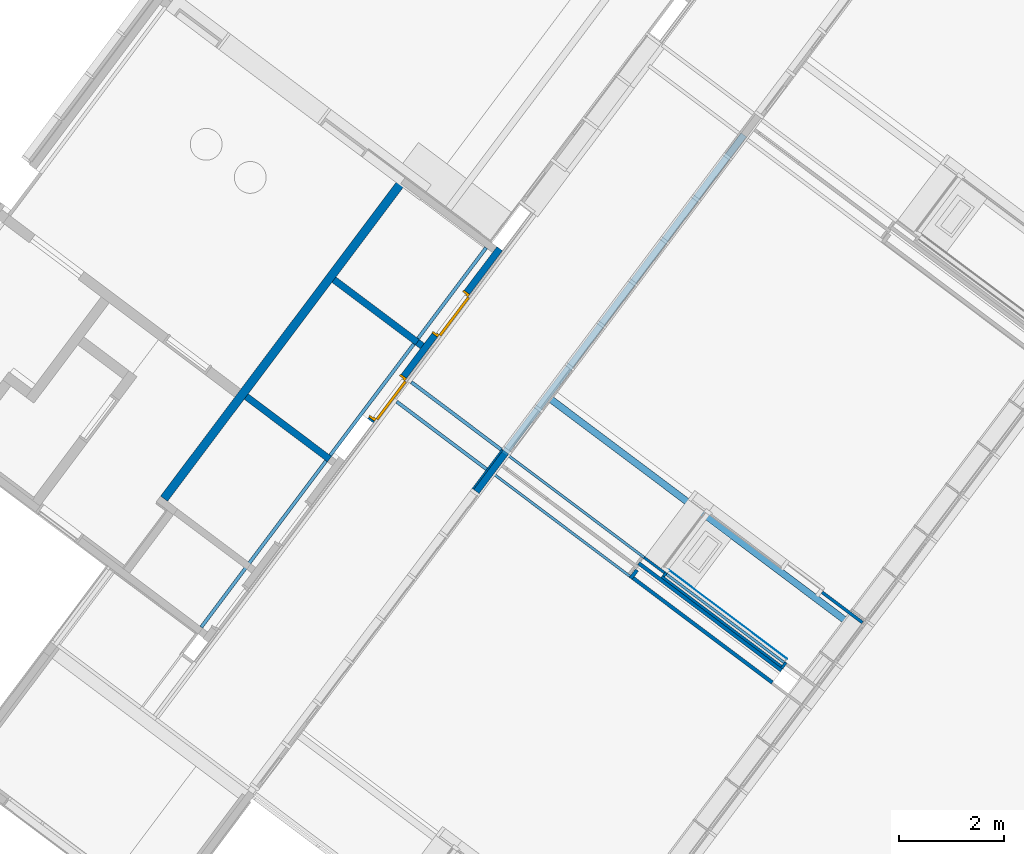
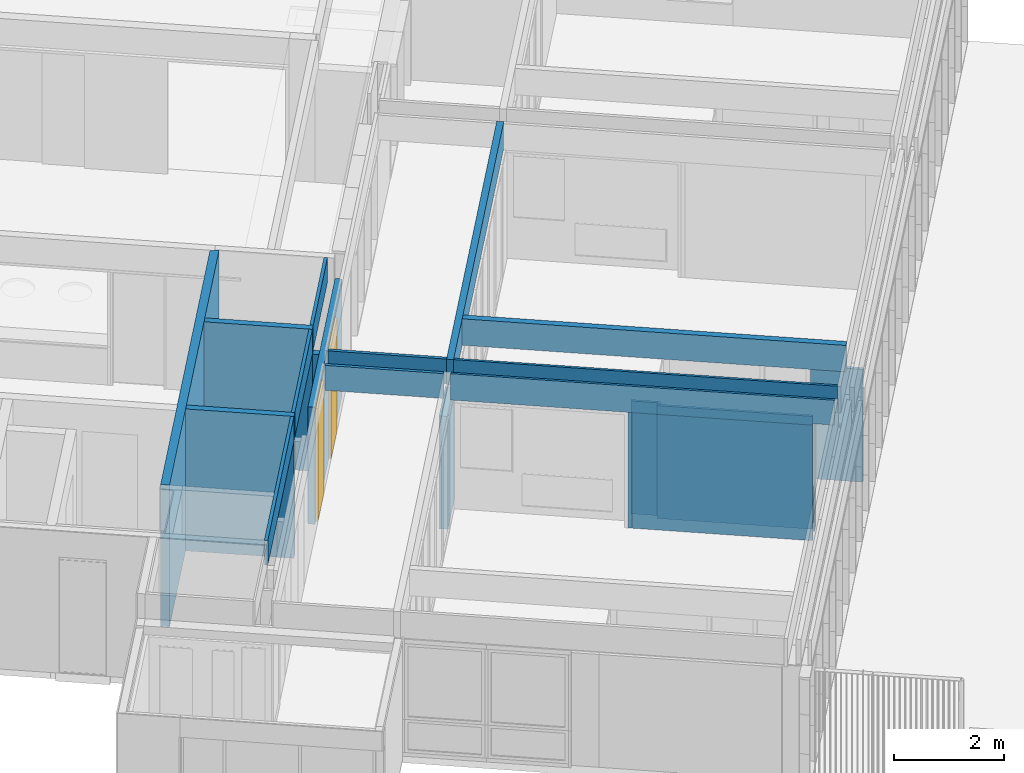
# One storey, part 120 of 243: 23 walls, 2 doors, 2 openings.
"""IFC2X3 building model written with IfcOpenShell, lengths in metres."""

from ifc_helpers import new_model, entity, si_unit, converted_unit, derived_unit, direction, frame, frame_2d, origin, place, context, subcontext, project, spatial, polyline, rectangle, outline, extrude, clip, bounded_halfspace, faceted_brep, source, transform, mapped, material, layer, layer_set, layer_usage, type_object, type_shapes, element, fill, save


model = new_model("IFC2X3")

# Units and contexts
model_context = context("Model", 3, precision=1e-05, world=origin(), true_north=direction((6.123031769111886e-17, 1.0)))
body_context = subcontext(model_context, "Body", "Model", "MODEL_VIEW")
ifc_project = project(units=[si_unit("LENGTHUNIT", "METRE"), si_unit("AREAUNIT", "SQUARE_METRE"), si_unit("VOLUMEUNIT", "CUBIC_METRE"), converted_unit("PLANEANGLEUNIT", "DEGREE", entity("IfcRatioMeasure", 0.017453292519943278), si_unit("PLANEANGLEUNIT", "RADIAN"), dimensions=[0, 0, 0, 0, 0, 0, 0]), si_unit("MASSUNIT", "GRAM", prefix="KILO"), derived_unit("MASSDENSITYUNIT", [(si_unit("MASSUNIT", "GRAM", prefix="KILO"), 1), (si_unit("LENGTHUNIT", "METRE"), -3)]), derived_unit("IONCONCENTRATIONUNIT", [(si_unit("MASSUNIT", "GRAM", prefix="KILO"), 1), (si_unit("LENGTHUNIT", "METRE"), -3)]), derived_unit("MOMENTOFINERTIAUNIT", [(si_unit("LENGTHUNIT", "METRE"), 4)]), si_unit("TIMEUNIT", "SECOND"), si_unit("FREQUENCYUNIT", "HERTZ"), si_unit("THERMODYNAMICTEMPERATUREUNIT", "DEGREE_CELSIUS"), derived_unit("THERMALTRANSMITTANCEUNIT", [(si_unit("MASSUNIT", "GRAM", prefix="KILO"), 1), (si_unit("THERMODYNAMICTEMPERATUREUNIT", "KELVIN"), -1), (si_unit("TIMEUNIT", "SECOND"), -3)]), derived_unit("THERMALCONDUCTANCEUNIT", [(si_unit("MASSUNIT", "GRAM", prefix="KILO"), 1), (si_unit("THERMODYNAMICTEMPERATUREUNIT", "KELVIN"), -1), (si_unit("TIMEUNIT", "SECOND"), -3), (si_unit("LENGTHUNIT", "METRE"), 1)]), derived_unit("VOLUMETRICFLOWRATEUNIT", [(si_unit("LENGTHUNIT", "METRE"), 3), (si_unit("TIMEUNIT", "SECOND"), -1)]), derived_unit("MASSFLOWRATEUNIT", [(si_unit("MASSUNIT", "GRAM", prefix="KILO"), 1), (si_unit("TIMEUNIT", "SECOND"), -1)]), derived_unit("ROTATIONALFREQUENCYUNIT", [(si_unit("TIMEUNIT", "SECOND"), -1)]), si_unit("ELECTRICCURRENTUNIT", "AMPERE"), si_unit("ELECTRICVOLTAGEUNIT", "VOLT"), si_unit("POWERUNIT", "WATT"), si_unit("FORCEUNIT", "NEWTON", prefix="KILO"), si_unit("ILLUMINANCEUNIT", "LUX"), si_unit("LUMINOUSFLUXUNIT", "LUMEN"), si_unit("LUMINOUSINTENSITYUNIT", "CANDELA"), derived_unit("USERDEFINED", [(si_unit("MASSUNIT", "GRAM", prefix="KILO"), -1), (si_unit("LENGTHUNIT", "METRE"), -2), (si_unit("TIMEUNIT", "SECOND"), 3), (si_unit("LUMINOUSFLUXUNIT", "LUMEN"), 1)]), derived_unit("USERDEFINED", [(si_unit("MASSUNIT", "GRAM", prefix="KILO"), 1), (si_unit("TIMEUNIT", "SECOND"), -3), (si_unit("LENGTHUNIT", "METRE"), 3), (si_unit("ELECTRICCURRENTUNIT", "AMPERE"), -2)]), derived_unit("SOUNDPOWERUNIT", [(si_unit("MASSUNIT", "GRAM", prefix="KILO"), 1), (si_unit("TIMEUNIT", "SECOND"), -3), (si_unit("LENGTHUNIT", "METRE"), 2)]), derived_unit("SOUNDPRESSUREUNIT", [(si_unit("MASSUNIT", "GRAM", prefix="KILO"), 1), (si_unit("LENGTHUNIT", "METRE"), -1), (si_unit("TIMEUNIT", "SECOND"), -2)]), derived_unit("LINEARVELOCITYUNIT", [(si_unit("LENGTHUNIT", "METRE"), 1), (si_unit("TIMEUNIT", "SECOND"), -1)]), si_unit("PRESSUREUNIT", "PASCAL"), derived_unit("USERDEFINED", [(si_unit("MASSUNIT", "GRAM", prefix="KILO"), 1), (si_unit("LENGTHUNIT", "METRE"), -2), (si_unit("TIMEUNIT", "SECOND"), -2)]), derived_unit("LINEARFORCEUNIT", [(si_unit("MASSUNIT", "GRAM", prefix="KILO"), 1), (si_unit("TIMEUNIT", "SECOND"), -2)]), derived_unit("PLANARFORCEUNIT", [(si_unit("MASSUNIT", "GRAM", prefix="KILO"), 1), (si_unit("LENGTHUNIT", "METRE"), -1), (si_unit("TIMEUNIT", "SECOND"), -2)]), derived_unit("SPECIFICHEATCAPACITYUNIT", [(si_unit("THERMODYNAMICTEMPERATUREUNIT", "KELVIN"), -1), (si_unit("LENGTHUNIT", "METRE"), 2), (si_unit("TIMEUNIT", "SECOND"), -2)]), derived_unit("HEATINGVALUEUNIT", [(si_unit("LENGTHUNIT", "METRE"), 2), (si_unit("TIMEUNIT", "SECOND"), -2)]), derived_unit("VAPORPERMEABILITYUNIT", [(si_unit("LENGTHUNIT", "METRE"), -1), (si_unit("TIMEUNIT", "SECOND"), 1)]), derived_unit("DYNAMICVISCOSITYUNIT", [(si_unit("MASSUNIT", "GRAM", prefix="KILO"), 1), (si_unit("TIMEUNIT", "SECOND"), -1), (si_unit("LENGTHUNIT", "METRE"), -1)]), derived_unit("THERMALEXPANSIONCOEFFICIENTUNIT", [(si_unit("THERMODYNAMICTEMPERATUREUNIT", "KELVIN"), -1)]), derived_unit("MODULUSOFELASTICITYUNIT", [(si_unit("MASSUNIT", "GRAM", prefix="KILO"), 1), (si_unit("LENGTHUNIT", "METRE"), -1), (si_unit("TIMEUNIT", "SECOND"), -2)]), derived_unit("ISOTHERMALMOISTURECAPACITYUNIT", [(si_unit("LENGTHUNIT", "METRE"), 3), (si_unit("MASSUNIT", "GRAM", prefix="KILO"), -1)]), derived_unit("MOISTUREDIFFUSIVITYUNIT", [(si_unit("TIMEUNIT", "SECOND"), -1), (si_unit("LENGTHUNIT", "METRE"), 2)])], contexts=[model_context])

# Site, building, storey
site_placement = place(None, frame((0.0, 0.0, 235.0), z_axis=(0.0, 0.0, 1.0), x_axis=(-0.7996477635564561, 0.6004693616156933, 0.0)))
site = spatial("IfcSite", under=ifc_project, at=site_placement, Name="Default", CompositionType="ELEMENT")
building_placement = place(site_placement, origin())
building = spatial("IfcBuilding", under=site, at=building_placement, CompositionType="ELEMENT")
storey_placement = place(building_placement, origin())
storey = spatial("IfcBuildingStorey", under=building, at=storey_placement, Name="P0- Escola", CompositionType="ELEMENT", Elevation=0.0)

# Walls
ifc_material_1 = material(Name="_Fusta massisa- T1-  REV- PAV")
ifc_layer_1 = layer(ifc_material_1, 0.015)
ifc_material_2 = material(Name="_Genèric perfils, muntants, rastrells")
ifc_layer_2 = layer(ifc_material_2, 0.02)
ifc_layer_set_1 = layer_set([ifc_layer_1, ifc_layer_2], Name="Muro básico:REV- Fusta- T1- 3,5 cm")
ifc_layer_usage_1 = layer_usage(ifc_layer_set_1, "AXIS2", "POSITIVE", -0.0175)
wall_type_1 = type_object("IfcWallType", Name="Muro básico:REV- Fusta- T1- 3,5 cm", PredefinedType="STANDARD", material=ifc_layer_set_1)
wall_1_placement = place(storey_placement, frame((13.42164768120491, -26.44019175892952, 0.0), z_axis=(0.0, 0.0, 1.0), x_axis=(0.0, 1.0, 0.0)))
element("IfcWallStandardCase", 1, at=wall_1_placement, inside=storey, type_object=wall_type_1, material=ifc_layer_usage_1, Name="Muro básico:REV- Fusta- T1- 3,5 cm", ObjectType="Muro básico:REV- Fusta- T1- 3,5 cm", context=body_context, shape_type="SweptSolid", body=[
    extrude(rectangle(XDim=0.9399999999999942, YDim=0.035000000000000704, at=frame_2d((0.4699999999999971, 0.0), x_axis=(-1.0, 0.0))), origin(), (0.0, 0.0, 1.0), 2.5050000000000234),
])
ifc_material_3 = material(Name="_Guix laminat- ENV")
ifc_layer_3 = layer(ifc_material_3, 0.02)
ifc_material_4 = material(Name="_Aillament")
ifc_layer_4 = layer(ifc_material_4, 0.045)
ifc_layer_set_2 = layer_set([ifc_layer_3, ifc_layer_4], Name="Muro básico:REV- Guix Laminat Extradossat- Aillament- T1- 6,5 cm")
ifc_layer_usage_2 = layer_usage(ifc_layer_set_2, "AXIS2", "POSITIVE", -0.032499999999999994)
wall_type_2 = type_object("IfcWallType", Name="Muro básico:REV- Guix Laminat Extradossat- Aillament- T1- 6,5 cm", PredefinedType="STANDARD", material=ifc_layer_set_2)
wall_2_placement = place(storey_placement, frame((15.977647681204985, -29.32519175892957, 2.6), z_axis=(0.0, 0.0, 1.0), x_axis=(0.0, 1.0, 0.0)))
element("IfcWallStandardCase", 2, at=wall_2_placement, inside=storey, type_object=wall_type_2, material=ifc_layer_usage_2, Name="Muro básico:REV- Guix Laminat Extradossat- Aillament- T1- 6,5 cm", ObjectType="Muro básico:REV- Guix Laminat Extradossat- Aillament- T1- 6,5 cm", context=body_context, shape_type="SweptSolid", body=[
    extrude(rectangle(XDim=9.035000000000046, YDim=0.06499999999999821, at=frame_2d((4.517500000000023, 0.0), x_axis=(-1.0, 0.0))), origin(), (0.0, 0.0, 1.0), 0.5500000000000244),
])
ifc_layer_usage_3 = layer_usage(ifc_layer_set_2, "AXIS2", "NEGATIVE", 0.032499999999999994)
wall_3_placement = place(storey_placement, frame((13.410147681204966, -25.957691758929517, 2.600000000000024)))
element("IfcWallStandardCase", 3, at=wall_3_placement, inside=storey, type_object=wall_type_2, material=ifc_layer_usage_3, Name="Muro básico:REV- Guix Laminat Extradossat- Aillament- T1- 6,5 cm", ObjectType="Muro básico:REV- Guix Laminat Extradossat- Aillament- T1- 6,5 cm", context=body_context, shape_type="Clipping", body=[
    clip(extrude(rectangle(XDim=2.1700000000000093, YDim=0.06500000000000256, at=frame_2d((1.0850000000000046, -2.0747292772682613e-15), x_axis=(-1.0, 0.0))), origin(), (0.0, 0.0, 1.0), 0.5499999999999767), bounded_halfspace(frame((2.1700000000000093, -0.03250000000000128, 0.0), z_axis=(0.0, 0.0, 1.0), x_axis=(-1.0, 0.0, 0.0)), True, frame((2.1700000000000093, -0.03250000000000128, 0.0), z_axis=(0.0, 0.0, 1.0), x_axis=(-1.0, 0.0, 0.0)), polyline([(0.0, 0.0), (0.0, -0.06499999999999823), (2.170000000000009, -0.06499999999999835), (2.170000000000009, 0.0), (0.0, 0.0)]))),
])
wall_4_placement = place(storey_placement, frame((13.410147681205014, -26.42269175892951, 2.600000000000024)))
element("IfcWallStandardCase", 4, at=wall_4_placement, inside=storey, type_object=wall_type_2, material=ifc_layer_usage_2, Name="Muro básico:REV- Guix Laminat Extradossat- Aillament- T1- 6,5 cm", ObjectType="Muro básico:REV- Guix Laminat Extradossat- Aillament- T1- 6,5 cm", context=body_context, shape_type="Clipping", body=[
    clip(extrude(rectangle(XDim=2.1699999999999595, YDim=0.06500000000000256, at=frame_2d((1.0849999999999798, 2.3245294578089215e-16), x_axis=(-1.0, 0.0))), origin(), (0.0, 0.0, 1.0), 0.5499999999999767), bounded_halfspace(frame((2.1699999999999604, -0.03249999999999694, 0.0), z_axis=(0.0, 0.0, 1.0), x_axis=(-1.0, 0.0, 0.0)), True, frame((2.1699999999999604, -0.03249999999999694, 0.0), z_axis=(0.0, 0.0, 1.0), x_axis=(-1.0, 0.0, 0.0)), polyline([(0.0, 0.0), (0.0, -0.06499999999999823), (2.169999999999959, -0.06500000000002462), (2.169999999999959, 0.0), (0.0, 0.0)]))),
])

# Wall, openings, doors
ifc_layer_5 = layer(ifc_material_3, 0.03)
ifc_layer_6 = layer(ifc_material_2, 0.07)
ifc_layer_7 = layer(ifc_material_3, 0.03)
ifc_layer_set_3 = layer_set([ifc_layer_5, ifc_layer_6, ifc_layer_7], Name="Muro básico:ENV- Guix Laminat- 13 cm")
ifc_layer_usage_4 = layer_usage(ifc_layer_set_3, "AXIS2", "POSITIVE", -0.06499999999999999)
wall_type_3 = type_object("IfcWallType", Name="Muro básico:ENV- Guix Laminat- 13 cm", PredefinedType="STANDARD", material=ifc_layer_set_3)
wall_5_placement = place(storey_placement, frame((15.760147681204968, -29.465191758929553, 0.0), z_axis=(0.0, 0.0, 1.0), x_axis=(0.0, 1.0, 0.0)))
wall_5 = element("IfcWallStandardCase", 5, at=wall_5_placement, inside=storey, type_object=wall_type_3, material=ifc_layer_usage_4, Name="Muro básico:ENV- Guix Laminat- 13 cm", ObjectType="Muro básico:ENV- Guix Laminat- 13 cm", context=body_context, shape_type="SweptSolid", body=[
    extrude(rectangle(XDim=4.100000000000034, YDim=0.13000000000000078, at=frame_2d((2.050000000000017, 0.0), x_axis=(-1.0, 0.0))), origin(), (0.0, 0.0, 1.0), 2.6000000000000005),
])
opening_1_placement = place(wall_5_placement, frame((4.06000000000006, 0.06499999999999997, 0.0)))
opening_1 = element("IfcOpeningElement", 6, at=opening_1_placement, cuts=wall_5, Name="FUS- Porta Fusta- marc ocult- obertura interior:FUS- Porta Fusta- marc ocult- 90x250,5 cm:1", ObjectType="Opening", context=body_context, shape_type="SweptSolid", body=[
    extrude(rectangle(XDim=2.544999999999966, YDim=1.0199999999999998, at=frame_2d((1.272499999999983, 0.5100000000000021), x_axis=(1.0, 0.0))), frame((0.0, 0.0, 0.0), z_axis=(0.0, -1.0, 0.0), x_axis=(0.0, 0.0, 1.0)), (0.0, 0.0, 1.0), 0.12999999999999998),
])
opening_2_placement = place(wall_5_placement, frame((2.0600000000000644, 0.06499999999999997, 0.0)))
opening_2 = element("IfcOpeningElement", 7, at=opening_2_placement, cuts=wall_5, Name="FUS- Porta Fusta- marc ocult- obertura interior:FUS- Porta Fusta- marc ocult- 90x250,5 cm:1", ObjectType="Opening", context=body_context, shape_type="SweptSolid", body=[
    extrude(rectangle(XDim=2.544999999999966, YDim=1.0199999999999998, at=frame_2d((1.272499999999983, 0.5100000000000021), x_axis=(1.0, 0.0))), frame((0.0, 0.0, 0.0), z_axis=(0.0, -1.0, 0.0), x_axis=(0.0, 0.0, 1.0)), (0.0, 0.0, 1.0), 0.12999999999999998),
])
door_style = type_object("IfcDoorStyle", Name="FUS- Porta Fusta- marc ocult- obertura interior:FUS- Porta Fusta- marc ocult- 90x250,5 cm", ConstructionType="NOTDEFINED", OperationType="NOTDEFINED", ParameterTakesPrecedence=False, Sizeable=False, material=ifc_material_1)
shared_shape = source(origin(), body_context, "Body", "Brep", [
    faceted_brep([(1.0100000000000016, 0.0, 0.0), (1.0100000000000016, -0.009999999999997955, 0.0), (0.9800000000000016, -0.009999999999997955, 0.0), (0.9800000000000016, 0.08000000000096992, 0.0), (0.9599999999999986, 0.08000000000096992, 0.0), (0.9599999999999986, 0.13000000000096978, 0.0), (1.0200000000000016, 0.13000000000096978, 0.0), (1.0200000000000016, 0.0, 0.0), (1.0100000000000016, 0.0, 2.5449999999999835), (1.0100000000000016, -0.009999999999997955, 2.5449999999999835), (0.9800000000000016, -0.009999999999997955, 2.5049999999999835), (0.9800000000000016, 0.08000000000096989, 2.5049999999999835), (0.9599999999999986, 0.08000000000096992, 2.5049999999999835), (0.9599999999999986, 0.09000000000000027, 2.5049999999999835), (0.9599999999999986, 0.13000000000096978, 2.5049999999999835), (1.0200000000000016, 0.13000000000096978, 2.5449999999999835), (1.0200000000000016, 0.0, 2.5449999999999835), (0.010000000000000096, 0.0, 0.0), (0.0, 0.0, 0.0), (0.0, 0.13000000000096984, 0.0), (0.06000000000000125, 0.13000000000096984, 0.0), (0.06000000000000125, 0.08000000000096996, 0.0), (0.03999999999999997, 0.08000000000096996, 0.0), (0.03999999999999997, -0.00999999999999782, 0.0), (0.010000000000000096, -0.00999999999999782, 0.0), (0.010000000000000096, 0.0, 2.5449999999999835), (0.0, 0.0, 2.5449999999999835), (0.0, 0.13000000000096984, 2.5449999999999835), (0.06000000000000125, 0.13000000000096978, 2.5049999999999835), (0.06000000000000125, 0.09000000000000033, 2.5049999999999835), (0.06000000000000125, 0.08000000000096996, 2.5049999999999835), (0.040000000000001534, 0.08000000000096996, 2.5049999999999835), (0.03999999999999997, -0.009999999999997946, 2.5049999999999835), (0.010000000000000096, -0.009999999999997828, 2.5449999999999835)], [[[0, 1, 2, 3, 4, 5, 6, 7]], [[8, 9, 1, 0]], [[3, 2, 10, 11]], [[4, 3, 11, 12]], [[5, 4, 12, 13, 14]], [[15, 16, 7, 6]], [[16, 8, 0, 7]], [[17, 18, 19, 20, 21, 22, 23, 24]], [[25, 26, 18, 17]], [[26, 27, 19, 18]], [[21, 20, 28, 29, 30]], [[22, 21, 30, 31]], [[23, 22, 31, 32]], [[33, 25, 17, 24]], [[8, 16, 15, 27, 26, 25, 33, 9]], [[28, 14, 13, 12, 11, 10, 32, 31, 30, 29]], [[32, 10, 2, 1, 9, 33, 24, 23]], [[14, 28, 20, 19, 27, 15, 6, 5]]]),
    faceted_brep([(0.9599999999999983, 0.17250000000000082, 0.0), (0.9599999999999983, 0.12250000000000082, 0.0), (0.05999999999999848, 0.12250000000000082, 0.0), (0.05999999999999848, 0.17250000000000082, 0.0), (0.9599999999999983, 0.17250000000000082, 2.5050000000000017), (0.9599999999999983, 0.12250000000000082, 2.5050000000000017), (0.05999999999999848, 0.12250000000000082, 2.5050000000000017), (0.05999999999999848, 0.17250000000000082, 2.5050000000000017)], [[[0, 1, 2, 3]], [[4, 5, 1, 0]], [[5, 6, 2, 1]], [[6, 7, 3, 2]], [[7, 4, 0, 3]], [[4, 7, 6, 5]]]),
])
type_shapes(door_style, [shared_shape])
door_1_placement = place(opening_1_placement, frame((-1.019999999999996, -0.129999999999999, 0.0)))
door_1 = element("IfcDoor", 8, at=door_1_placement, inside=storey, type_object=door_style, material=ifc_material_1, Name="FUS- Porta Fusta- marc ocult- obertura interior:FUS- Porta Fusta- marc ocult- 90x250,5 cm", ObjectType="FUS- Porta Fusta- marc ocult- obertura interior:FUS- Porta Fusta- marc ocult- 90x250,5 cm", OverallHeight=2.544999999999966, OverallWidth=1.020000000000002, context=body_context, shape_type="MappedRepresentation", body=[
    mapped(shared_shape, transform((0.0, 0.0, 0.0), scale=1.0)),
])
fill(opening_1, door_1)
door_2_placement = place(opening_2_placement, frame((-1.019999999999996, -0.129999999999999, 0.0)))
door_2 = element("IfcDoor", 9, at=door_2_placement, inside=storey, type_object=door_style, material=ifc_material_1, Name="FUS- Porta Fusta- marc ocult- obertura interior:FUS- Porta Fusta- marc ocult- 90x250,5 cm", ObjectType="FUS- Porta Fusta- marc ocult- obertura interior:FUS- Porta Fusta- marc ocult- 90x250,5 cm", OverallHeight=2.544999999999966, OverallWidth=1.020000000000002, context=body_context, shape_type="MappedRepresentation", body=[
    mapped(shared_shape, transform((0.0, 0.0, 0.0), scale=1.0)),
])
fill(opening_2, door_2)

# Walls
ifc_layer_usage_5 = layer_usage(ifc_layer_set_3, "AXIS2", "NEGATIVE", 0.06499999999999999)
wall_6_placement = place(storey_placement, frame((17.930147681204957, -24.315191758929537, 0.0), z_axis=(0.0, 0.0, 1.0), x_axis=(-1.0, 0.0, 0.0)))
element("IfcWallStandardCase", 10, at=wall_6_placement, inside=storey, type_object=wall_type_3, material=ifc_layer_usage_5, Name="Muro básico:ENV- Guix Laminat- 13 cm", ObjectType="Muro básico:ENV- Guix Laminat- 13 cm", context=body_context, shape_type="SweptSolid", body=[
    extrude(rectangle(XDim=1.984999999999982, YDim=0.12999999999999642, at=frame_2d((0.992499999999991, 0.0), x_axis=(-1.0, 0.0))), origin(), (0.0, 0.0, 1.0), 3.150000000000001),
])
wall_7_placement = place(storey_placement, frame((17.930147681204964, -27.098191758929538, 0.0), z_axis=(0.0, 0.0, 1.0), x_axis=(-1.0, 0.0, 0.0)))
element("IfcWallStandardCase", 11, at=wall_7_placement, inside=storey, type_object=wall_type_3, material=ifc_layer_usage_5, Name="Muro básico:ENV- Guix Laminat- 13 cm", ObjectType="Muro básico:ENV- Guix Laminat- 13 cm", context=body_context, shape_type="SweptSolid", body=[
    extrude(rectangle(XDim=1.9849999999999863, YDim=0.12999999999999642, at=frame_2d((0.9924999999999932, 0.0), x_axis=(-1.0, 0.0))), origin(), (0.0, 0.0, 1.0), 3.150000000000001),
])
wall_8_placement = place(storey_placement, frame((15.945147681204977, -27.098191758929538, 0.0), z_axis=(0.0, 0.0, 1.0), x_axis=(-1.0, 0.0, 0.0)))
element("IfcWallStandardCase", 12, at=wall_8_placement, inside=storey, type_object=wall_type_3, material=ifc_layer_usage_5, Name="Muro básico:ENV- Guix Laminat- 13 cm", ObjectType="Muro básico:ENV- Guix Laminat- 13 cm", context=body_context, shape_type="SweptSolid", body=[
    extrude(rectangle(XDim=0.12000000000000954, YDim=0.12999999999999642, at=frame_2d((0.06000000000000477, 0.0), x_axis=(-1.0, 0.0))), origin(), (0.0, 0.0, 1.0), 2.6000000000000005),
])
wall_9_placement = place(storey_placement, frame((13.339147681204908, -25.500191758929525, 0.0), z_axis=(0.0, 0.0, 1.0), x_axis=(0.0, -1.0, 0.0)))
element("IfcWallStandardCase", 13, at=wall_9_placement, inside=storey, type_object=wall_type_3, material=ifc_layer_usage_5, Name="Muro básico:ENV- Guix Laminat- 13 cm", ObjectType="Muro básico:ENV- Guix Laminat- 13 cm", context=body_context, shape_type="SweptSolid", body=[
    extrude(rectangle(XDim=0.9399999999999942, YDim=0.13000000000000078, at=frame_2d((0.4699999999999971, 0.0), x_axis=(-1.0, 0.0))), origin(), (0.0, 0.0, 1.0), 2.5050000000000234),
])
wall_10_placement = place(storey_placement, frame((13.345147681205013, -26.390191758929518, 2.565), z_axis=(0.0, 0.0, 1.0), x_axis=(0.0, -1.0, 0.0)))
element("IfcWallStandardCase", 14, at=wall_10_placement, inside=storey, type_object=wall_type_3, material=ifc_layer_usage_5, Name="Muro básico:ENV- Guix Laminat- 13 cm", ObjectType="Muro básico:ENV- Guix Laminat- 13 cm", context=body_context, shape_type="SweptSolid", body=[
    extrude(rectangle(XDim=7.600000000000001, YDim=0.13000000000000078, at=frame_2d((3.8000000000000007, 0.0), x_axis=(-1.0, 0.0))), origin(), (0.0, 0.0, 1.0), 0.5850000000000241),
])
wall_11_placement = place(storey_placement, frame((6.250147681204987, -27.756191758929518, 2.5649999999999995)))
element("IfcWallStandardCase", 15, at=wall_11_placement, inside=storey, type_object=wall_type_3, material=ifc_layer_usage_4, Name="Muro básico:ENV- Guix Laminat- 13 cm", ObjectType="Muro básico:ENV- Guix Laminat- 13 cm", context=body_context, shape_type="SweptSolid", body=[
    extrude(rectangle(XDim=7.030000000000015, YDim=0.12999999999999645, at=frame_2d((3.5150000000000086, -3.122502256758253e-16), x_axis=(-1.0, 0.0))), origin(), (0.0, 0.0, 1.0), 0.5850000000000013),
])
ifc_layer_8 = layer(ifc_material_3, 0.015)
ifc_layer_9 = layer(ifc_material_2, 0.055)
ifc_layer_set_4 = layer_set([ifc_layer_8, ifc_layer_9], Name="Muro básico:ENV- Guix Laminat una cara- 7 cm")
ifc_layer_usage_6 = layer_usage(ifc_layer_set_4, "AXIS2", "NEGATIVE", 0.035)
wall_type_4 = type_object("IfcWallType", Name="Muro básico:ENV- Guix Laminat una cara- 7 cm", PredefinedType="STANDARD", material=ifc_layer_set_4)
wall_12_placement = place(storey_placement, frame((6.647750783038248, -25.9751917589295, 0.0)))
element("IfcWallStandardCase", 16, at=wall_12_placement, inside=storey, type_object=wall_type_4, material=ifc_layer_usage_6, Name="Muro básico:ENV- Guix Laminat una cara- 7 cm", ObjectType="Muro básico:ENV- Guix Laminat una cara- 7 cm", context=body_context, shape_type="SweptSolid", body=[
    extrude(rectangle(XDim=3.312999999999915, YDim=0.07000000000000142, at=frame_2d((1.6564999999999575, -8.673617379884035e-17), x_axis=(-1.0, 0.0))), origin(), (0.0, 0.0, 1.0), 2.565),
])
wall_13_placement = place(storey_placement, frame((9.995750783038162, -25.94019175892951, 0.0), z_axis=(0.0, 0.0, 1.0), x_axis=(0.0, -1.0, 0.0)))
element("IfcWallStandardCase", 17, at=wall_13_placement, inside=storey, type_object=wall_type_4, material=ifc_layer_usage_6, Name="Muro básico:ENV- Guix Laminat una cara- 7 cm", ObjectType="Muro básico:ENV- Guix Laminat una cara- 7 cm", context=body_context, shape_type="SweptSolid", body=[
    extrude(rectangle(XDim=0.20200000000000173, YDim=0.07000000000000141, at=frame_2d((0.10100000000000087, 0.0), x_axis=(-1.0, 0.0))), origin(), (0.0, 0.0, 1.0), 2.5650000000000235),
])
ifc_layer_usage_7 = layer_usage(ifc_layer_set_4, "AXIS2", "POSITIVE", -0.035)
wall_14_placement = place(storey_placement, frame((6.647750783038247, -26.265191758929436, 0.0)))
element("IfcWallStandardCase", 18, at=wall_14_placement, inside=storey, type_object=wall_type_4, material=ifc_layer_usage_7, Name="Muro básico:ENV- Guix Laminat una cara- 7 cm", ObjectType="Muro básico:ENV- Guix Laminat una cara- 7 cm", context=body_context, shape_type="SweptSolid", body=[
    extrude(rectangle(XDim=3.3989999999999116, YDim=0.07000000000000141, at=frame_2d((1.6994999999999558, 0.0), x_axis=(-1.0, 0.0))), origin(), (0.0, 0.0, 1.0), 2.565),
])
ifc_material_5 = material(Name="_Enrajolat Gresite- REV- PAV")
ifc_layer_10 = layer(ifc_material_5, 0.01)
ifc_material_6 = material(Name="_Morter Base - REV")
ifc_layer_11 = layer(ifc_material_6, 0.015)
ifc_material_7 = material(Name="_Ceràmica- ENV")
ifc_layer_12 = layer(ifc_material_7, 0.14)
ifc_layer_set_5 = layer_set([ifc_layer_10, ifc_layer_11, ifc_layer_12], Name="Muro básico:ENV- REV- Ceràmic- 14 cm + peces pasta vitrea")
ifc_layer_usage_8 = layer_usage(ifc_layer_set_5, "AXIS2", "POSITIVE", -0.08249999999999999)
wall_type_5 = type_object("IfcWallType", Name="Muro básico:ENV- REV- Ceràmic- 14 cm + peces pasta vitrea", PredefinedType="STANDARD", material=ifc_layer_set_5)
wall_15_placement = place(storey_placement, frame((18.012647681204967, -29.325191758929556, 0.0), z_axis=(0.0, 0.0, 1.0), x_axis=(0.0, 1.0, 0.0)))
element("IfcWallStandardCase", 19, at=wall_15_placement, inside=storey, type_object=wall_type_5, material=ifc_layer_usage_8, Name="Muro básico:ENV- REV- Ceràmic- 14 cm + peces pasta vitrea", ObjectType="Muro básico:ENV- REV- Ceràmic- 14 cm + peces pasta vitrea", context=body_context, shape_type="SweptSolid", body=[
    extrude(outline(polyline([(7.505000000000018, -0.08249999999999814), (7.505000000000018, 0.08250000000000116), (5.075000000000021, 0.0825000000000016), (4.94500000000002, 0.08250000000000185), (2.2920000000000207, 0.08250000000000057), (2.16200000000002, 0.08250000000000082), (0.0, 0.08250000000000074), (0.0, 0.0), (0.025000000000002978, 0.0), (0.02500000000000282, -0.08249999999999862), (4.957999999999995, -0.08249999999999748), (5.147999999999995, -0.08249999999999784), (7.505000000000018, -0.08249999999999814)])), origin(), (0.0, 0.0, 1.0), 3.150000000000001),
])
ifc_layer_13 = layer(ifc_material_3, 0.015)
ifc_layer_14 = layer(ifc_material_4, 0.035)
ifc_layer_set_6 = layer_set([ifc_layer_13, ifc_layer_14], Name="Muro básico:REV- Guix Laminat Extradossat- Aïllament- T1- 5 cm")
ifc_layer_usage_9 = layer_usage(ifc_layer_set_6, "AXIS2", "NEGATIVE", 0.025)
wall_type_6 = type_object("IfcWallType", Name="Muro básico:REV- Guix Laminat Extradossat- Aïllament- T1- 5 cm", PredefinedType="STANDARD", material=ifc_layer_set_6)
wall_16_placement = place(storey_placement, frame((6.250147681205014, -25.96519175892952, 2.5649999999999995)))
element("IfcWallStandardCase", 20, at=wall_16_placement, inside=storey, type_object=wall_type_6, material=ifc_layer_usage_9, Name="Muro básico:REV- Guix Laminat Extradossat- Aïllament- T1- 5 cm", ObjectType="Muro básico:REV- Guix Laminat Extradossat- Aïllament- T1- 5 cm", context=body_context, shape_type="Clipping", body=[
    clip(clip(extrude(rectangle(XDim=7.029999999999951, YDim=0.0499999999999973, at=frame_2d((3.5149999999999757, 1.5785983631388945e-16), x_axis=(-1.0, 0.0))), origin(), (0.0, 0.0, 1.0), 0.5850000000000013), bounded_halfspace(frame((0.3976031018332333, -0.02499999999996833, 0.035000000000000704), z_axis=(1.0, 0.0, 0.0), x_axis=(0.0, 1.0, 0.0)), True, frame((0.3976031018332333, -0.02499999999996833, 0.035000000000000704), z_axis=(1.0, 0.0, 0.0), x_axis=(0.0, 1.0, 0.0)), polyline([(0.0, 0.0), (0.0, -0.03500000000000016), (0.049999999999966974, -0.03500000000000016), (0.049999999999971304, 0.0), (0.0, 0.0)]))), bounded_halfspace(frame((0.39760310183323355, 0.0250000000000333, 0.035000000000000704), z_axis=(0.0, 0.0, 1.0), x_axis=(0.0, 1.0, 0.0)), True, frame((0.39760310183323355, 0.0250000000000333, 0.035000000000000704), z_axis=(0.0, 0.0, 1.0), x_axis=(0.0, 1.0, 0.0)), polyline([(0.0, 0.0), (0.0, 0.39760310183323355), (-0.05000000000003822, 0.39760310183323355), (-0.05000000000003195, 0.0), (0.0, 0.0)]))),
])
ifc_layer_usage_10 = layer_usage(ifc_layer_set_6, "AXIS2", "POSITIVE", -0.025)
wall_17_placement = place(storey_placement, frame((6.250147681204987, -26.415191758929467, 2.5649999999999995)))
element("IfcWallStandardCase", 21, at=wall_17_placement, inside=storey, type_object=wall_type_6, material=ifc_layer_usage_10, Name="Muro básico:REV- Guix Laminat Extradossat- Aïllament- T1- 5 cm", ObjectType="Muro básico:REV- Guix Laminat Extradossat- Aïllament- T1- 5 cm", context=body_context, shape_type="SweptSolid", body=[
    extrude(rectangle(XDim=7.030000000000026, YDim=0.0499999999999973, at=frame_2d((3.515000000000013, 1.8682971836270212e-15), x_axis=(-1.0, 0.0))), origin(), (0.0, 0.0, 1.0), 0.5850000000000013),
])
ifc_material_8 = material(Name="_Vinílic- REV")
ifc_layer_15 = layer(ifc_material_8, 0.005)
ifc_layer_16 = layer(ifc_material_3, 0.015)
ifc_layer_17 = layer(ifc_material_4, 0.03)
ifc_layer_set_7 = layer_set([ifc_layer_15, ifc_layer_16, ifc_layer_17], Name="Muro básico:REV- Guix Laminat Extradossat- Acabat Vinilic- T1- 5 cm")
ifc_layer_usage_11 = layer_usage(ifc_layer_set_7, "AXIS2", "NEGATIVE", 0.024999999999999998)
wall_type_7 = type_object("IfcWallType", Name="Muro básico:REV- Guix Laminat Extradossat- Acabat Vinilic- T1- 5 cm", PredefinedType="STANDARD", material=ifc_layer_set_7)
wall_18_placement = place(storey_placement, frame((10.030750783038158, -26.415191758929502, 0.0), z_axis=(0.0, 0.0, 1.0), x_axis=(-1.0, 0.0, 0.0)))
element("IfcWallStandardCase", 22, at=wall_18_placement, inside=storey, type_object=wall_type_7, material=ifc_layer_usage_11, Name="Muro básico:REV- Guix Laminat Extradossat- Acabat Vinilic- T1- 5 cm", ObjectType="Muro básico:REV- Guix Laminat Extradossat- Acabat Vinilic- T1- 5 cm", context=body_context, shape_type="SweptSolid", body=[
    extrude(rectangle(XDim=0.485603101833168, YDim=0.0499999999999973, at=frame_2d((0.242801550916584, 0.0), x_axis=(-1.0, 0.0))), origin(), (0.0, 0.0, 1.0), 2.5050000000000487),
])
ifc_layer_usage_12 = layer_usage(ifc_layer_set_7, "AXIS2", "POSITIVE", -0.024999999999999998)
wall_19_placement = place(storey_placement, frame((6.670147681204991, -26.440191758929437, 0.0), z_axis=(0.0, 0.0, 1.0), x_axis=(0.0, 1.0, 0.0)))
element("IfcWallStandardCase", 23, at=wall_19_placement, inside=storey, type_object=wall_type_7, material=ifc_layer_usage_12, Name="Muro básico:REV- Guix Laminat Extradossat- Acabat Vinilic- T1- 5 cm", ObjectType="Muro básico:REV- Guix Laminat Extradossat- Acabat Vinilic- T1- 5 cm", context=body_context, shape_type="SweptSolid", body=[
    extrude(rectangle(XDim=0.1399999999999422, YDim=0.04999999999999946, at=frame_2d((0.0699999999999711, 0.0), x_axis=(-1.0, 0.0))), origin(), (0.0, 0.0, 1.0), 2.5050000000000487),
])
wall_20_placement = place(storey_placement, frame((6.695147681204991, -26.325191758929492, 0.0)))
element("IfcWallStandardCase", 24, at=wall_20_placement, inside=storey, type_object=wall_type_7, material=ifc_layer_usage_12, Name="Muro básico:REV- Guix Laminat Extradossat- Acabat Vinilic- T1- 5 cm", ObjectType="Muro básico:REV- Guix Laminat Extradossat- Acabat Vinilic- T1- 5 cm", context=body_context, shape_type="SweptSolid", body=[
    extrude(rectangle(XDim=2.8499999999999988, YDim=0.0499999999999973, at=frame_2d((1.4249999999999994, 0.0), x_axis=(-1.0, 0.0))), origin(), (0.0, 0.0, 1.0), 2.5050000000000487),
])
wall_21_placement = place(storey_placement, frame((9.520147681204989, -26.350191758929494, 0.0), z_axis=(0.0, 0.0, 1.0), x_axis=(0.0, -1.0, 0.0)))
element("IfcWallStandardCase", 25, at=wall_21_placement, inside=storey, type_object=wall_type_7, material=ifc_layer_usage_12, Name="Muro básico:REV- Guix Laminat Extradossat- Acabat Vinilic- T1- 5 cm", ObjectType="Muro básico:REV- Guix Laminat Extradossat- Acabat Vinilic- T1- 5 cm", context=body_context, shape_type="SweptSolid", body=[
    extrude(rectangle(XDim=0.09000000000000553, YDim=0.04999999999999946, at=frame_2d((0.04500000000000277, 0.0), x_axis=(-1.0, 0.0))), origin(), (0.0, 0.0, 1.0), 2.5050000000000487),
])
ifc_layer_18 = layer(ifc_material_1, 0.06)
ifc_layer_set_8 = layer_set([ifc_layer_18], Name="Muro básico:REV- Fusta- T1- 6 cm")
ifc_layer_usage_13 = layer_usage(ifc_layer_set_8, "AXIS2", "NEGATIVE", 0.03)
wall_type_8 = type_object("IfcWallType", Name="Muro básico:REV- Fusta- T1- 6 cm", PredefinedType="STANDARD", material=ifc_layer_set_8)
wall_22_placement = place(storey_placement, frame((5.961447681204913, -27.920191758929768, 0.0)))
element("IfcWallStandardCase", 26, at=wall_22_placement, inside=storey, type_object=wall_type_8, material=ifc_layer_usage_13, Name="Muro básico:REV- Fusta- T1- 6 cm", ObjectType="Muro básico:REV- Fusta- T1- 6 cm", context=body_context, shape_type="SweptSolid", body=[
    extrude(rectangle(XDim=0.9627000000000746, YDim=0.06000000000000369, at=frame_2d((0.4813500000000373, 0.0), x_axis=(-1.0, 0.0))), origin(), (0.0, 0.0, 1.0), 2.5049999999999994),
])
ifc_layer_19 = layer(ifc_material_8, 0.01)
ifc_layer_set_9 = layer_set([ifc_layer_19], Name="Muro básico:REV- Vinilic- T1- 1 cm")
ifc_layer_usage_14 = layer_usage(ifc_layer_set_9, "AXIS2", "NEGATIVE", 0.005)
wall_type_9 = type_object("IfcWallType", Name="Muro básico:REV- Vinilic- T1- 1 cm", PredefinedType="STANDARD", material=ifc_layer_set_9)
wall_23_placement = place(storey_placement, frame((9.520147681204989, -26.505191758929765, 0.0), z_axis=(0.0, 0.0, 1.0), x_axis=(-1.0, 0.0, 0.0)))
element("IfcWallStandardCase", 27, at=wall_23_placement, inside=storey, type_object=wall_type_9, material=ifc_layer_usage_14, Name="Muro básico:REV- Vinilic- T1- 1 cm", ObjectType="Muro básico:REV- Vinilic- T1- 1 cm", context=body_context, shape_type="SweptSolid", body=[
    extrude(rectangle(XDim=2.824999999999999, YDim=0.009999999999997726, at=frame_2d((1.4124999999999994, 6.119237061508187e-16), x_axis=(-1.0, 0.0))), origin(), (0.0, 0.0, 1.0), 0.8299999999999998),
])

save(model, "model.ifc")
